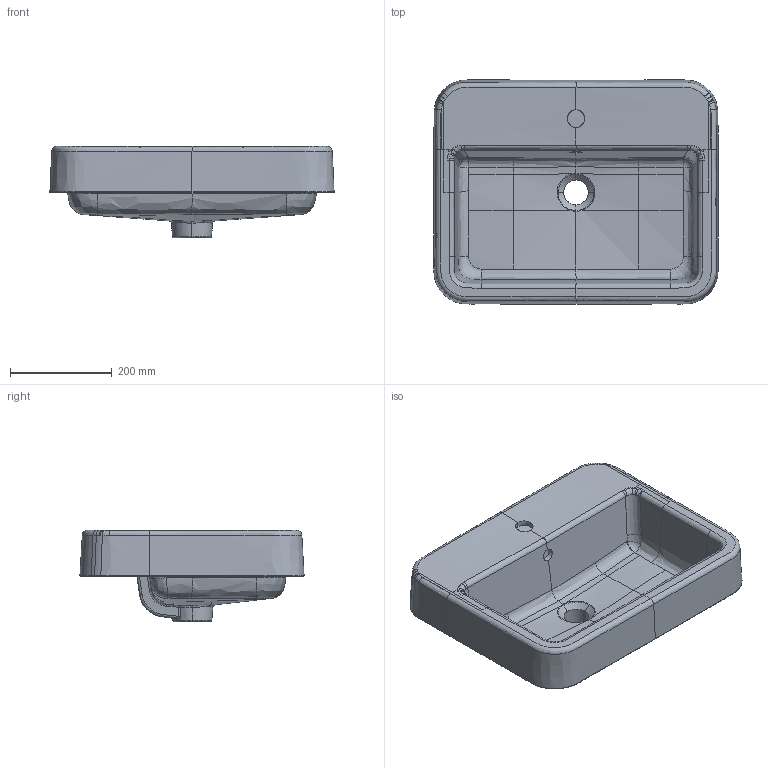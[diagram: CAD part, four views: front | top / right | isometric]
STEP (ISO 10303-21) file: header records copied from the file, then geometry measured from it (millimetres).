
FILE_DESCRIPTION(/* description */ (''),/* implementation_level */ '2;1');
FILE_NAME(/* name */ '419355_OA_RL_EWT_55.stp',/* time_stamp */ '2019-02-19T10:10:03+01:00',/* author */ (''),/* organization */ (''),/* preprocessor_version */ 'ST-DEVELOPER v16',/* originating_system */ 'SIEMENS PLM Software NX 10.0',/* authorisation */ '');
FILE_SCHEMA (('AUTOMOTIVE_DESIGN { 1 0 10303 214 3 1 1 1 }'));
Length unit declared in the file: millimetre
Products named in the file (1): math210C1D535t6p
Bounding box: 559.64 x 441.33 x 180.68 mm (x, y, z)
Volume: 12779736.8 mm3; surface area: 838900.3 mm2
Topology: 1 solids, 1 shells, 243 faces, 632 edges, 384 vertices
Faces by surface type: bspline 209, plane 20, cylinder 10, extrusion 2, cone 2
Full cylindrical faces by diameter (mm): 24 x1, 48.552 x1
Entity records: 30494 total; most frequent: CARTESIAN_POINT 26422, ORIENTED_EDGE 1248, EDGE_CURVE 624, B_SPLINE_CURVE_WITH_KNOTS 459, VERTEX_POINT 384, EDGE_LOOP 246, ADVANCED_FACE 243, FACE_OUTER_BOUND 240
